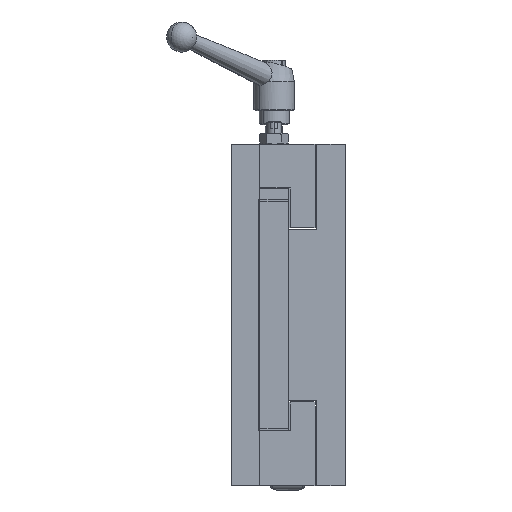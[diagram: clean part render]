
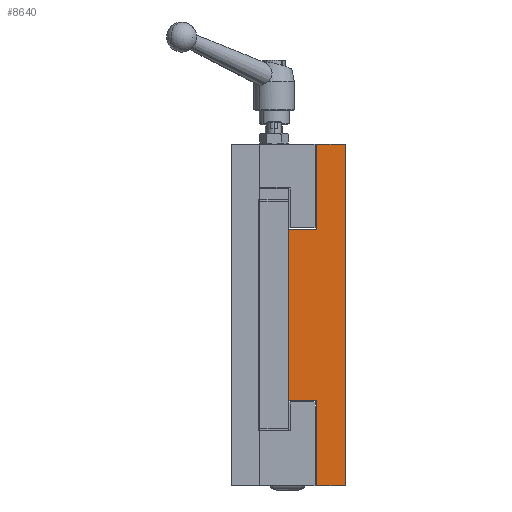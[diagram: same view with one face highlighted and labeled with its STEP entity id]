
A CAD part, left-side view. The second image highlights one B-rep face of the part: STEP entity #8640.
In plain terms, the highlighted planar face has unit normal (-1, 0, 0).
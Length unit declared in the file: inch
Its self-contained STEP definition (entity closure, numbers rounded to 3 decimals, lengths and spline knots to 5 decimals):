
#312 = EDGE_LOOP ( 'NONE', ( #7637, #7638, #7639, #7640, #7641, #7642, #7643, #7644 ) ) ;
#2070 = VERTEX_POINT ( 'NONE', #3111 ) ;
#2071 = VERTEX_POINT ( 'NONE', #3105 ) ;
#2073 = VERTEX_POINT ( 'NONE', #3113 ) ;
#2076 = VERTEX_POINT ( 'NONE', #3116 ) ;
#2079 = VERTEX_POINT ( 'NONE', #3119 ) ;
#2080 = VERTEX_POINT ( 'NONE', #3120 ) ;
#2081 = VERTEX_POINT ( 'NONE', #3121 ) ;
#2085 = VERTEX_POINT ( 'NONE', #3125 ) ;
#3105 = CARTESIAN_POINT ( 'NONE',  ( 0., 1., 1.5 ) ) ;
#3111 = CARTESIAN_POINT ( 'NONE',  ( 0., 1., -1.5 ) ) ;
#3113 = CARTESIAN_POINT ( 'NONE',  ( 0., 0., 3. ) ) ;
#3116 = CARTESIAN_POINT ( 'NONE',  ( 0., 0.5, -1.5 ) ) ;
#3119 = CARTESIAN_POINT ( 'NONE',  ( 0., 0.5, 3. ) ) ;
#3120 = CARTESIAN_POINT ( 'NONE',  ( 0., 0., -3. ) ) ;
#3121 = CARTESIAN_POINT ( 'NONE',  ( 0., 0.5, -3. ) ) ;
#3125 = CARTESIAN_POINT ( 'NONE',  ( 0., 0.5, 1.5 ) ) ;
#4092 = AXIS2_PLACEMENT_3D ( 'NONE', #9814, #9820, #9821 ) ;
#7351 = LINE ( 'NONE', #7360, #8922 ) ;
#7360 = CARTESIAN_POINT ( 'NONE',  ( 0., 1., 3. ) ) ;
#7361 = DIRECTION ( 'NONE',  ( 0., 0., 1. ) ) ;
#7373 = LINE ( 'NONE', #7393, #8913 ) ;
#7378 = LINE ( 'NONE', #7399, #8909 ) ;
#7389 = LINE ( 'NONE', #7391, #8910 ) ;
#7390 = LINE ( 'NONE', #7401, #8907 ) ;
#7391 = CARTESIAN_POINT ( 'NONE',  ( 0., 1., -1.5 ) ) ;
#7392 = DIRECTION ( 'NONE',  ( 0., -1., 0. ) ) ;
#7393 = CARTESIAN_POINT ( 'NONE',  ( 0., 0.5, -3. ) ) ;
#7394 = DIRECTION ( 'NONE',  ( 0., 0., -1. ) ) ;
#7395 = LINE ( 'NONE', #7397, #8908 ) ;
#7396 = LINE ( 'NONE', #7403, #8906 ) ;
#7397 = CARTESIAN_POINT ( 'NONE',  ( 0., 1., -3. ) ) ;
#7398 = DIRECTION ( 'NONE',  ( 0., 1., 0. ) ) ;
#7399 = CARTESIAN_POINT ( 'NONE',  ( 0., 0., 3. ) ) ;
#7400 = DIRECTION ( 'NONE',  ( 0., 0., -1. ) ) ;
#7401 = CARTESIAN_POINT ( 'NONE',  ( 0., 1., 3. ) ) ;
#7402 = DIRECTION ( 'NONE',  ( 0., -1., 0. ) ) ;
#7403 = CARTESIAN_POINT ( 'NONE',  ( 0., 0.5, 3. ) ) ;
#7404 = DIRECTION ( 'NONE',  ( 0., 0., -1. ) ) ;
#7405 = LINE ( 'NONE', #7406, #8904 ) ;
#7406 = CARTESIAN_POINT ( 'NONE',  ( 0., 1., 1.5 ) ) ;
#7407 = DIRECTION ( 'NONE',  ( 0., 1., 0. ) ) ;
#7637 = ORIENTED_EDGE ( 'NONE', *, *, #8471, .T. ) ;
#7638 = ORIENTED_EDGE ( 'NONE', *, *, #8472, .T. ) ;
#7639 = ORIENTED_EDGE ( 'NONE', *, *, #8473, .F. ) ;
#7640 = ORIENTED_EDGE ( 'NONE', *, *, #8474, .F. ) ;
#7641 = ORIENTED_EDGE ( 'NONE', *, *, #8475, .F. ) ;
#7642 = ORIENTED_EDGE ( 'NONE', *, *, #8476, .T. ) ;
#7643 = ORIENTED_EDGE ( 'NONE', *, *, #8477, .T. ) ;
#7644 = ORIENTED_EDGE ( 'NONE', *, *, #8461, .F. ) ;
#8461 = EDGE_CURVE ( 'NONE', #2070, #2071, #7351, .T. ) ;
#8471 = EDGE_CURVE ( 'NONE', #2070, #2076, #7389, .T. ) ;
#8472 = EDGE_CURVE ( 'NONE', #2076, #2081, #7373, .T. ) ;
#8473 = EDGE_CURVE ( 'NONE', #2080, #2081, #7395, .T. ) ;
#8474 = EDGE_CURVE ( 'NONE', #2073, #2080, #7378, .T. ) ;
#8475 = EDGE_CURVE ( 'NONE', #2079, #2073, #7390, .T. ) ;
#8476 = EDGE_CURVE ( 'NONE', #2079, #2085, #7396, .T. ) ;
#8477 = EDGE_CURVE ( 'NONE', #2085, #2071, #7405, .T. ) ;
#8640 = ADVANCED_FACE ( 'NONE', ( #9818 ), #9812, .F. ) ;
#8904 = VECTOR ( 'NONE', #7407, 39.37008 ) ;
#8906 = VECTOR ( 'NONE', #7404, 39.37008 ) ;
#8907 = VECTOR ( 'NONE', #7402, 39.37008 ) ;
#8908 = VECTOR ( 'NONE', #7398, 39.37008 ) ;
#8909 = VECTOR ( 'NONE', #7400, 39.37008 ) ;
#8910 = VECTOR ( 'NONE', #7392, 39.37008 ) ;
#8913 = VECTOR ( 'NONE', #7394, 39.37008 ) ;
#8922 = VECTOR ( 'NONE', #7361, 39.37008 ) ;
#9812 = PLANE ( 'NONE',  #4092 ) ;
#9814 = CARTESIAN_POINT ( 'NONE',  ( 0., 0., 3. ) ) ;
#9818 = FACE_OUTER_BOUND ( 'NONE', #312, .T. ) ;
#9820 = DIRECTION ( 'NONE',  ( 1., 0., 0. ) ) ;
#9821 = DIRECTION ( 'NONE',  ( 0., 0., -1. ) ) ;
